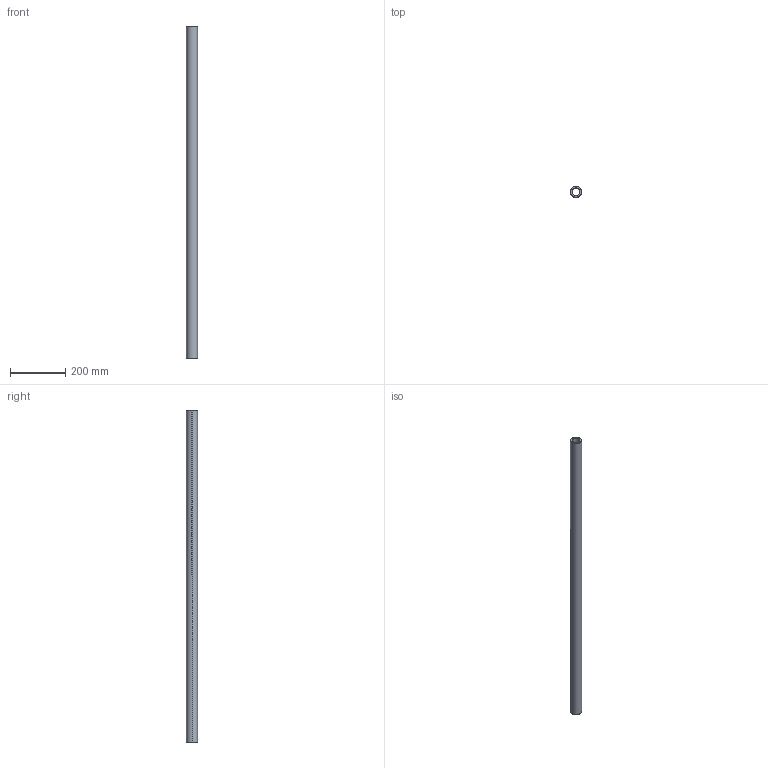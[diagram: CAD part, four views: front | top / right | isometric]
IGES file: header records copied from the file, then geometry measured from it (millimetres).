
Start section: SolidWorks IGES file using analytic representation for surfaces
Global section: file name: C:\Users\IanO\Desktop\L1771_v2\L1771.40_v2\L1771.40_v2_20230705_IGES\L1771.40-1200.igs; native system: SolidWorks 2019; preprocessor: SolidWorks 2019; author: IanO; date: 230705.160442; units: millimetre
Bounding box: 40 x 40 x 1200 mm (x, y, z)
Surface area: 257635.7 mm2 (no closed solid volume)
Topology: 0 solids, 0 shells, 6 faces, 272 edges, 272 vertices
Faces by surface type: revolution 4, bspline 2
